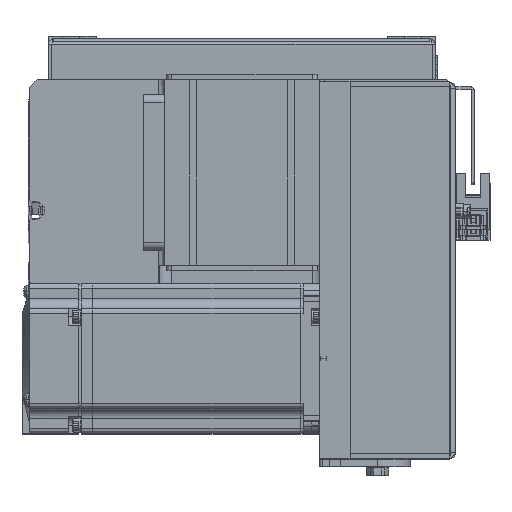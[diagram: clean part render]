
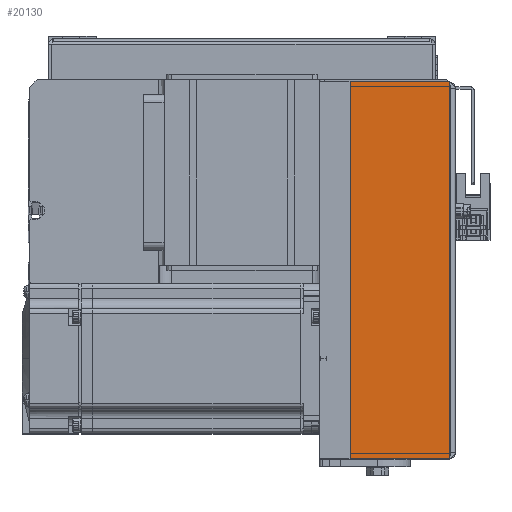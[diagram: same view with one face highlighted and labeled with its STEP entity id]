
A CAD part, top view. The second image highlights one B-rep face of the part: STEP entity #20130.
In plain terms, the highlighted planar face has unit normal (0, 0, 1) as drawn and (0, 1, 0) by its records, which use the part's own axes.
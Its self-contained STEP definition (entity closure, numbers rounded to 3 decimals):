
#2641 = VECTOR ( 'NONE', #19824, 1000. ) ;
#6159 = CARTESIAN_POINT ( 'NONE',  ( -75., 36., 51.5 ) ) ;
#6519 = EDGE_CURVE ( 'NONE', #7462, #28591, #25222, .T. ) ;
#7190 = VECTOR ( 'NONE', #27531, 1000. ) ;
#7462 = VERTEX_POINT ( 'NONE', #31994 ) ;
#8242 = LINE ( 'NONE', #38009, #7190 ) ;
#8955 = ORIENTED_EDGE ( 'NONE', *, *, #6519, .F. ) ;
#11682 = CARTESIAN_POINT ( 'NONE',  ( -75., 36., 51.5 ) ) ;
#13761 = ORIENTED_EDGE ( 'NONE', *, *, #15214, .F. ) ;
#15214 = EDGE_CURVE ( 'NONE', #28591, #35727, #38669, .T. ) ;
#15558 = DIRECTION ( 'NONE',  ( 0., -1., 0. ) ) ;
#15570 = DIRECTION ( 'NONE',  ( -1., 0., 0. ) ) ;
#16171 = CARTESIAN_POINT ( 'NONE',  ( 0., 36., 52. ) ) ;
#17032 = VERTEX_POINT ( 'NONE', #41562 ) ;
#18794 = CARTESIAN_POINT ( 'NONE',  ( -75., 36., 51.5 ) ) ;
#19479 = CARTESIAN_POINT ( 'NONE',  ( -75., 36., 12. ) ) ;
#19824 = DIRECTION ( 'NONE',  ( 0., 0., -1. ) ) ;
#20130 = ADVANCED_FACE ( 'NONE', ( #25835 ), #22379, .F. ) ;
#22379 = PLANE ( 'NONE',  #34891 ) ;
#25222 = LINE ( 'NONE', #18794, #34576 ) ;
#25631 = DIRECTION ( 'NONE',  ( 0., 0., 1. ) ) ;
#25790 = DIRECTION ( 'NONE',  ( -1., 0., 0. ) ) ;
#25835 = FACE_OUTER_BOUND ( 'NONE', #29377, .T. ) ;
#27531 = DIRECTION ( 'NONE',  ( 0., 0., -1. ) ) ;
#27809 = VECTOR ( 'NONE', #25790, 1000. ) ;
#28371 = LINE ( 'NONE', #35858, #27809 ) ;
#28591 = VERTEX_POINT ( 'NONE', #11682 ) ;
#29377 = EDGE_LOOP ( 'NONE', ( #8955, #30950, #40555, #13761 ) ) ;
#30950 = ORIENTED_EDGE ( 'NONE', *, *, #37688, .T. ) ;
#31994 = CARTESIAN_POINT ( 'NONE',  ( 75., 36., 51.5 ) ) ;
#34576 = VECTOR ( 'NONE', #15570, 1000. ) ;
#34891 = AXIS2_PLACEMENT_3D ( 'NONE', #16171, #15558, #25631 ) ;
#35727 = VERTEX_POINT ( 'NONE', #19479 ) ;
#35858 = CARTESIAN_POINT ( 'NONE',  ( 0., 36., 12. ) ) ;
#37688 = EDGE_CURVE ( 'NONE', #7462, #17032, #8242, .T. ) ;
#37919 = EDGE_CURVE ( 'NONE', #17032, #35727, #28371, .T. ) ;
#38009 = CARTESIAN_POINT ( 'NONE',  ( 75., 36., 51.5 ) ) ;
#38669 = LINE ( 'NONE', #6159, #2641 ) ;
#40555 = ORIENTED_EDGE ( 'NONE', *, *, #37919, .T. ) ;
#41562 = CARTESIAN_POINT ( 'NONE',  ( 75., 36., 12. ) ) ;
